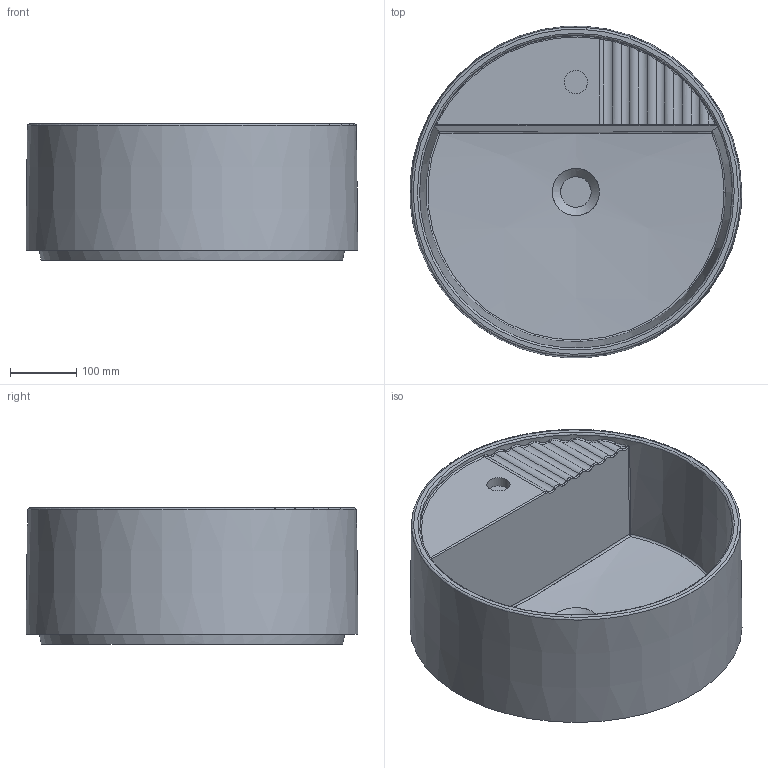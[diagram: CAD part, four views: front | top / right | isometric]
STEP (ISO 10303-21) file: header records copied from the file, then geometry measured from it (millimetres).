
FILE_DESCRIPTION(/* description */ (''),/* implementation_level */ '2;1');
FILE_NAME(/* name */ 'tiberino',/* time_stamp */ '2025-09-01T09:39:45+02:00',/* author */ (''),/* organization */ (''),/* preprocessor_version */ 'ST-DEVELOPER v16.5',/* originating_system */ 'Rhino 7.27',/* authorisation */ '');
FILE_SCHEMA (('CONFIG_CONTROL_DESIGN'));
Length unit declared in the file: millimetre
Products named in the file (1): Document
Bounding box: 499.15 x 498.7 x 205 mm (x, y, z)
Surface area: 920452.8 mm2 (no closed solid volume)
Topology: 0 solids, 2 shells, 69 faces, 162 edges, 96 vertices
Faces by surface type: bspline 46, cylinder 17, plane 6
Full cylindrical faces by diameter (mm): 35 x1, 46 x1
Entity records: 4359 total; most frequent: CARTESIAN_POINT 3433, ORIENTED_EDGE 299, EDGE_CURVE 151, VERTEX_POINT 87, EDGE_LOOP 73, ADVANCED_FACE 69, FACE_OUTER_BOUND 69, DIRECTION 29
